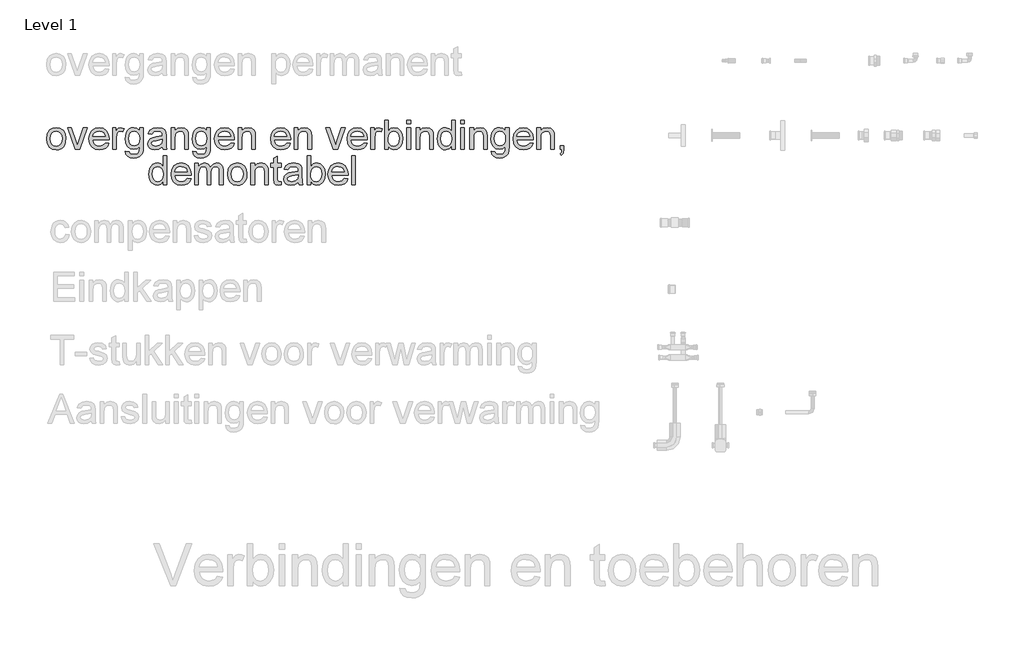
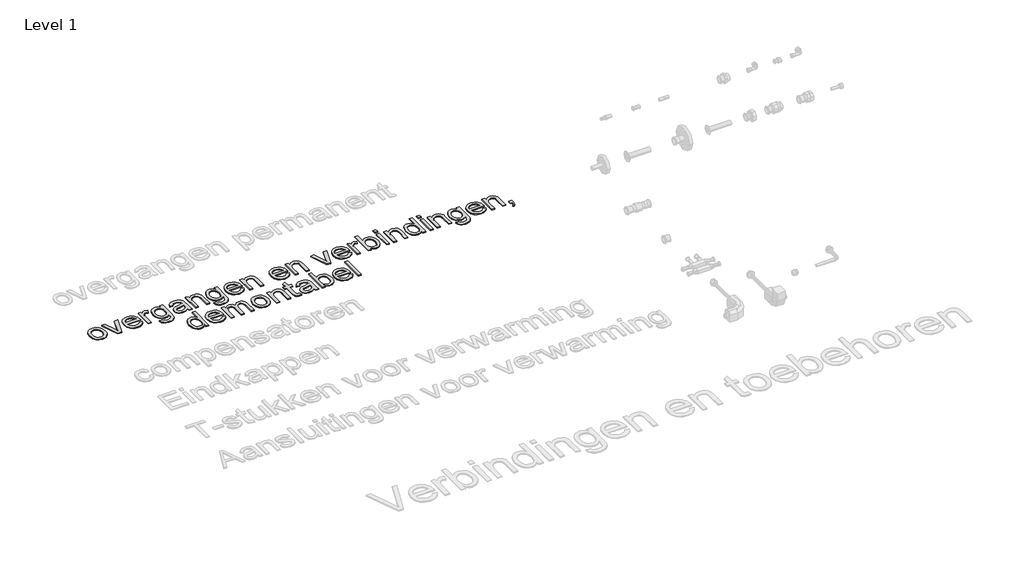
# One storey, part 7 of 8: 1 proxy.
"""IFC4 building model written with IfcOpenShell, lengths in millimetres."""

from ifc_helpers import new_model, si_unit, origin, origin_with_axes, place, context, project, spatial, polyline, outline, extrude, element, save

model = new_model("IFC4")

# Units and contexts
model_context = context("Model", 3, world=origin())
ifc_project = project(units=[si_unit("LENGTHUNIT", "METRE", prefix="MILLI")], contexts=[model_context])

# Site, building, storey
site = spatial("IfcSite", under=ifc_project)
building = spatial("IfcBuilding", under=site)
storey = spatial("IfcBuildingStorey", under=building, Name="Level 1", Elevation=0.0)

# Proxy
placement = place(None, origin())
element("IfcBuildingElementProxy", 1, Name="small", ObjectType="small", at=placement, inside=storey, context=model_context, shape_type="SweptSolid", body=[
    extrude(outline(polyline([(2634.8228033, 5275.2037382), (2638.6254769, 5300.1056705), (2650.0334976, 5317.6082695), (2664.1282831, 5326.1835988), (2681.0042565, 5329.0420419), (2699.4725458, 5325.5612651), (2714.2240006, 5315.1189347), (2723.8937789, 5298.5391063), (2727.1170383, 5276.6458356), (2725.6921087, 5258.8857192), (2721.4173199, 5245.3660559), (2714.4171387, 5235.2413302), (2704.8160318, 5227.6660268), (2693.412303, 5222.9405826), (2681.0042565, 5221.3654345), (2662.3127854, 5224.8333354), (2647.5784984, 5235.2370383), (2638.0117271, 5252.1645151), (2634.8228033, 5275.2037382)]), holes=[polyline([(2652.4026576, 5275.2380739), (2654.4370451, 5259.3277907), (2660.5402074, 5247.9927333), (2669.7249945, 5241.2071499), (2681.0042565, 5238.9452888), (2692.232015, 5241.2200258), (2701.3996343, 5248.0442368), (2707.5027966, 5259.5295127), (2709.537184, 5275.7874443), (2707.4899207, 5291.2341961), (2701.3481308, 5302.4147431), (2692.1676356, 5309.2003265), (2681.0042565, 5311.4621877), (2669.7249945, 5309.2089104), (2660.5402074, 5302.4490788), (2654.4370451, 5291.1397731), (2652.4026576, 5275.2380739)])]), origin_with_axes(), (0.0, 0.0, 1.0), 5.0),
    extrude(outline(polyline([(2772.2340862, 5223.5629163), (2735.9069654, 5326.8445601), (2754.5168893, 5326.8445601), (2776.5260428, 5264.9717136), (2783.1528238, 5244.164308), (2789.6422622, 5263.8043014), (2811.7887583, 5326.8445601), (2830.3986822, 5326.8445601), (2794.5179249, 5223.5629163), (2772.2340862, 5223.5629163)])), origin_with_axes(), (0.0, 0.0, 1.0), 5.0),
    extrude(outline(polyline([(2918.0919396, 5254.3276613), (2935.3284374, 5252.1301795), (2929.1179762, 5239.1427188), (2919.2078484, 5229.4343129), (2905.8212357, 5223.3826541), (2889.1813199, 5221.3654345), (2868.5541764, 5224.8462113), (2852.6825209, 5235.2885417), (2842.5620872, 5252.0142966), (2839.1886093, 5274.3453469), (2842.5964229, 5297.4274895), (2852.8198635, 5314.689739), (2868.4769212, 5325.4539662), (2888.185586, 5329.0420419), (2907.2805009, 5325.4625501), (2922.5384067, 5314.7240747), (2932.5429575, 5297.4961608), (2935.8778078, 5274.4483538), (2935.7748009, 5269.7100337), (2856.7684636, 5269.7100337), (2859.8114608, 5256.5508948), (2866.8803134, 5246.8768246), (2877.0822942, 5240.9281727), (2889.5246764, 5238.9452888), (2906.7611742, 5242.6192036), (2918.0919396, 5254.3276613)]), holes=[polyline([(2856.7684636, 5287.289888), (2918.2979536, 5287.289888), (2911.2591447, 5303.221631), (2901.0099523, 5309.4020485), (2888.1169147, 5311.4621877), (2876.2668225, 5309.8183683), (2866.4682855, 5304.8869101), (2859.6569504, 5297.2000158), (2856.7684636, 5287.289888)])]), origin_with_axes(), (0.0, 0.0, 1.0), 5.0),
    extrude(outline(polyline([(2953.4576621, 5223.5629163), (2953.4576621, 5326.8445601), (2968.8400346, 5326.8445601), (2968.8400346, 5311.5651946), (2979.7587722, 5325.6428123), (2990.7461811, 5329.0420419), (3008.3947067, 5323.6170088), (3002.5233101, 5307.8569441), (2990.162475, 5311.4621877), (2980.2223035, 5307.9942867), (2973.8873756, 5298.3803039), (2971.0375164, 5277.8475835), (2971.0375164, 5223.5629163), (2953.4576621, 5223.5629163)])), origin_with_axes(), (0.0, 0.0, 1.0), 5.0),
    extrude(outline(polyline([(3014.9871521, 5214.7729891), (3032.5670063, 5212.5755073), (3038.2667247, 5203.3048811), (3055.3315442, 5199.3906166), (3073.3234263, 5203.8199159), (3081.9073395, 5216.2494222), (3083.1090874, 5236.747807), (3070.7310845, 5226.8591389), (3055.6405651, 5223.5629163), (3037.5156323, 5227.3999255), (3024.000261, 5238.9109531), (3015.592318, 5255.7869265), (3012.7896703, 5275.718773), (3017.8198434, 5302.9641136), (3023.9745092, 5314.0244857), (3032.3781603, 5322.2435827), (3042.7432355, 5327.3424271), (3054.7821738, 5329.0420419), (3070.4649832, 5325.1964488), (3083.1090874, 5313.6596694), (3083.1090874, 5326.8445601), (3100.6889417, 5326.8445601), (3100.6889417, 5237.6748696), (3099.4871938, 5217.0863537), (3095.8819503, 5203.5280628), (3089.671489, 5194.5364137), (3080.6540882, 5187.6478234), (3069.0271778, 5183.2700276), (3054.9881877, 5181.8107624), (3038.631541, 5183.8666096), (3025.7513793, 5190.0341512), (3017.4893628, 5200.3305551), (3014.9871521, 5214.7729891)]), holes=[polyline([(3030.3695246, 5276.9205209), (3032.2451096, 5260.7956399), (3037.8718647, 5249.7095159), (3046.3313112, 5243.2844569), (3056.7049703, 5241.1427705), (3067.0013742, 5243.271581), (3075.5037403, 5249.6580125), (3081.2077506, 5260.6025018), (3083.1090874, 5276.4054861), (3081.1519552, 5291.646224), (3075.2805585, 5302.620757), (3066.6537257, 5309.25183), (3056.4302851, 5311.4621877), (3046.3913986, 5309.2861657), (3037.9748717, 5302.7580996), (3032.2708613, 5291.9466609), (3030.3695246, 5276.9205209)])]), origin_with_axes(), (0.0, 0.0, 1.0), 5.0),
    extrude(outline(polyline([(3192.9831766, 5236.747807), (3175.935525, 5224.8333354), (3157.1024194, 5221.3654345), (3142.4110519, 5223.4513254), (3131.5738614, 5229.7089981), (3124.891285, 5239.2113901), (3122.6637595, 5251.0314386), (3126.0286535, 5264.937378), (3134.8700841, 5275.0320599), (3147.1794157, 5280.8004496), (3162.3901099, 5283.4442949), (3192.8801697, 5289.4873698), (3192.9831766, 5293.4016342), (3191.7728449, 5301.2473309), (3188.1418496, 5306.380511), (3180.0214677, 5310.1917685), (3168.70787, 5311.4621877), (3150.9220018, 5308.0801258), (3142.4410956, 5296.0798152), (3124.8612413, 5298.2772969), (3132.4665884, 5315.4451234), (3147.7802896, 5325.5054697), (3170.9740231, 5329.0420419), (3192.2792957, 5325.9174975), (3204.3139421, 5318.0718008), (3209.7046396, 5306.1401615), (3210.5630309, 5290.757789), (3210.5630309, 5268.8859781), (3211.4557579, 5238.3444148), (3214.9579945, 5223.5629163), (3197.3781402, 5223.5629163), (3192.9831766, 5236.747807)]), holes=[polyline([(3192.9831766, 5271.9075155), (3164.6219273, 5266.516818), (3149.4970722, 5263.6669588), (3142.6471095, 5259.0316457), (3140.2436138, 5252.2675221), (3145.4798009, 5242.7565462), (3160.8450055, 5238.9452888), (3178.6308737, 5243.1514062), (3190.0989818, 5253.3319273), (3192.8801697, 5266.9288459), (3192.9831766, 5271.9075155)])]), origin_with_axes(), (0.0, 0.0, 1.0), 5.0),
    extrude(outline(polyline([(3234.7353305, 5223.5629163), (3234.7353305, 5326.8445601), (3252.3151848, 5326.8445601), (3252.3151848, 5312.4235859), (3265.7575929, 5324.8874279), (3284.1099994, 5329.0420419), (3300.7112875, 5325.6943158), (3312.042053, 5316.9043886), (3317.3125757, 5303.9770153), (3318.2396383, 5286.9808671), (3318.2396383, 5223.5629163), (3300.6597841, 5223.5629163), (3300.6597841, 5284.6117071), (3298.6339805, 5300.1657579), (3291.4749969, 5308.3891467), (3279.4060149, 5311.4621877), (3269.109611, 5309.7368211), (3260.3325597, 5304.5607214), (3254.3195285, 5294.5604625), (3252.3151848, 5278.3626183), (3252.3151848, 5223.5629163), (3234.7353305, 5223.5629163)])), origin_with_axes(), (0.0, 0.0, 1.0), 5.0),
    extrude(outline(polyline([(3338.0169744, 5214.7729891), (3355.5968287, 5212.5755073), (3361.2965471, 5203.3048811), (3378.3613665, 5199.3906166), (3396.3532486, 5203.8199159), (3404.9371619, 5216.2494222), (3406.1389097, 5236.747807), (3393.7609069, 5226.8591389), (3378.6703874, 5223.5629163), (3360.5454546, 5227.3999255), (3347.0300833, 5238.9109531), (3338.6221403, 5255.7869265), (3335.8194926, 5275.718773), (3340.8496658, 5302.9641136), (3347.0043315, 5314.0244857), (3355.4079826, 5322.2435827), (3365.7730578, 5327.3424271), (3377.8119961, 5329.0420419), (3393.4948055, 5325.1964488), (3406.1389097, 5313.6596694), (3406.1389097, 5326.8445601), (3423.718764, 5326.8445601), (3423.718764, 5237.6748696), (3422.5170161, 5217.0863537), (3418.9117726, 5203.5280628), (3412.7013114, 5194.5364137), (3403.6839105, 5187.6478234), (3392.0570001, 5183.2700276), (3378.01801, 5181.8107624), (3361.6613634, 5183.8666096), (3348.7812016, 5190.0341512), (3340.5191851, 5200.3305551), (3338.0169744, 5214.7729891)]), holes=[polyline([(3353.3993469, 5276.9205209), (3355.2749319, 5260.7956399), (3360.901687, 5249.7095159), (3369.3611335, 5243.2844569), (3379.7347926, 5241.1427705), (3390.0311966, 5243.271581), (3398.5335626, 5249.6580125), (3404.2375729, 5260.6025018), (3406.1389097, 5276.4054861), (3404.1817775, 5291.646224), (3398.3103809, 5302.620757), (3389.6835481, 5309.25183), (3379.4601074, 5311.4621877), (3369.4212209, 5309.2861657), (3361.004694, 5302.7580996), (3355.3006837, 5291.9466609), (3353.3993469, 5276.9205209)])]), origin_with_axes(), (0.0, 0.0, 1.0), 5.0),
    extrude(outline(polyline([(3522.3994304, 5254.3276613), (3539.6359281, 5252.1301795), (3533.4254669, 5239.1427188), (3523.5153391, 5229.4343129), (3510.1287264, 5223.3826541), (3493.4888107, 5221.3654345), (3472.8616672, 5224.8462113), (3456.9900116, 5235.2885417), (3446.8695779, 5252.0142966), (3443.4961001, 5274.3453469), (3446.9039136, 5297.4274895), (3457.1273542, 5314.689739), (3472.784412, 5325.4539662), (3492.4930767, 5329.0420419), (3511.5879917, 5325.4625501), (3526.8458974, 5314.7240747), (3536.8504483, 5297.4961608), (3540.1852986, 5274.4483538), (3540.0822916, 5269.7100337), (3461.0759543, 5269.7100337), (3464.1189516, 5256.5508948), (3471.1878041, 5246.8768246), (3481.389785, 5240.9281727), (3493.8321672, 5238.9452888), (3511.0686649, 5242.6192036), (3522.3994304, 5254.3276613)]), holes=[polyline([(3461.0759543, 5287.289888), (3522.6054443, 5287.289888), (3515.5666355, 5303.221631), (3505.3174431, 5309.4020485), (3492.4244054, 5311.4621877), (3480.5743132, 5309.8183683), (3470.7757763, 5304.8869101), (3463.9644411, 5297.2000158), (3461.0759543, 5287.289888)])]), origin_with_axes(), (0.0, 0.0, 1.0), 5.0),
    extrude(outline(polyline([(3557.7651528, 5223.5629163), (3557.7651528, 5326.8445601), (3575.3450071, 5326.8445601), (3575.3450071, 5312.4235859), (3588.7874152, 5324.8874279), (3607.1398217, 5329.0420419), (3623.7411099, 5325.6943158), (3635.0718753, 5316.9043886), (3640.342398, 5303.9770153), (3641.2694607, 5286.9808671), (3641.2694607, 5223.5629163), (3623.6896064, 5223.5629163), (3623.6896064, 5284.6117071), (3621.6638029, 5300.1657579), (3614.5048192, 5308.3891467), (3602.4358373, 5311.4621877), (3592.1394333, 5309.7368211), (3583.3623821, 5304.5607214), (3577.3493509, 5294.5604625), (3575.3450071, 5278.3626183), (3575.3450071, 5223.5629163), (3557.7651528, 5223.5629163)])), origin_with_axes(), (0.0, 0.0, 1.0), 5.0),
    extrude(outline(polyline([(3792.6896899, 5254.3276613), (3809.9261876, 5252.1301795), (3803.7157264, 5239.1427188), (3793.8055986, 5229.4343129), (3780.4189859, 5223.3826541), (3763.7790701, 5221.3654345), (3743.1519267, 5224.8462113), (3727.2802711, 5235.2885417), (3717.1598374, 5252.0142966), (3713.7863596, 5274.3453469), (3717.1941731, 5297.4274895), (3727.4176137, 5314.689739), (3743.0746715, 5325.4539662), (3762.7833362, 5329.0420419), (3781.8782512, 5325.4625501), (3797.1361569, 5314.7240747), (3807.1407078, 5297.4961608), (3810.4755581, 5274.4483538), (3810.3725511, 5269.7100337), (3731.3662138, 5269.7100337), (3734.4092111, 5256.5508948), (3741.4780636, 5246.8768246), (3751.6800445, 5240.9281727), (3764.1224267, 5238.9452888), (3781.3589244, 5242.6192036), (3792.6896899, 5254.3276613)]), holes=[polyline([(3731.3662138, 5287.289888), (3792.8957038, 5287.289888), (3785.856895, 5303.221631), (3775.6077026, 5309.4020485), (3762.7146649, 5311.4621877), (3750.8645727, 5309.8183683), (3741.0660358, 5304.8869101), (3734.2547006, 5297.2000158), (3731.3662138, 5287.289888)])]), origin_with_axes(), (0.0, 0.0, 1.0), 5.0),
    extrude(outline(polyline([(3828.0554123, 5223.5629163), (3828.0554123, 5326.8445601), (3845.6352666, 5326.8445601), (3845.6352666, 5312.4235859), (3859.0776747, 5324.8874279), (3877.4300812, 5329.0420419), (3894.0313694, 5325.6943158), (3905.3621348, 5316.9043886), (3910.6326575, 5303.9770153), (3911.5597202, 5286.9808671), (3911.5597202, 5223.5629163), (3893.9798659, 5223.5629163), (3893.9798659, 5284.6117071), (3891.9540624, 5300.1657579), (3884.7950787, 5308.3891467), (3872.7260967, 5311.4621877), (3862.4296928, 5309.7368211), (3853.6526416, 5304.5607214), (3847.6396104, 5294.5604625), (3845.6352666, 5278.3626183), (3845.6352666, 5223.5629163), (3828.0554123, 5223.5629163)])), origin_with_axes(), (0.0, 0.0, 1.0), 5.0),
    extrude(outline(polyline([(4016.0087762, 5223.5629163), (3979.6816555, 5326.8445601), (3998.2915793, 5326.8445601), (4020.3007328, 5264.9717136), (4026.9275138, 5244.164308), (4033.4169522, 5263.8043014), (4055.5634483, 5326.8445601), (4074.1733722, 5326.8445601), (4038.2926149, 5223.5629163), (4016.0087762, 5223.5629163)])), origin_with_axes(), (0.0, 0.0, 1.0), 5.0),
    extrude(outline(polyline([(4161.8666297, 5254.3276613), (4179.1031274, 5252.1301795), (4172.8926662, 5239.1427188), (4162.9825384, 5229.4343129), (4149.5959257, 5223.3826541), (4132.9560099, 5221.3654345), (4112.3288665, 5224.8462113), (4096.4572109, 5235.2885417), (4086.3367772, 5252.0142966), (4082.9632994, 5274.3453469), (4086.3711129, 5297.4274895), (4096.5945535, 5314.689739), (4112.2516113, 5325.4539662), (4131.960276, 5329.0420419), (4151.055191, 5325.4625501), (4166.3130967, 5314.7240747), (4176.3176476, 5297.4961608), (4179.6524979, 5274.4483538), (4179.5494909, 5269.7100337), (4100.5431536, 5269.7100337), (4103.5861509, 5256.5508948), (4110.6550034, 5246.8768246), (4120.8569843, 5240.9281727), (4133.2993665, 5238.9452888), (4150.5358642, 5242.6192036), (4161.8666297, 5254.3276613)]), holes=[polyline([(4100.5431536, 5287.289888), (4162.0726436, 5287.289888), (4155.0338348, 5303.221631), (4144.7846424, 5309.4020485), (4131.8916047, 5311.4621877), (4120.0415125, 5309.8183683), (4110.2429756, 5304.8869101), (4103.4316404, 5297.2000158), (4100.5431536, 5287.289888)])]), origin_with_axes(), (0.0, 0.0, 1.0), 5.0),
    extrude(outline(polyline([(4197.2323521, 5223.5629163), (4197.2323521, 5326.8445601), (4212.6147246, 5326.8445601), (4212.6147246, 5311.5651946), (4223.5334623, 5325.6428123), (4234.5208712, 5329.0420419), (4252.1693968, 5323.6170088), (4246.2980001, 5307.8569441), (4233.9371651, 5311.4621877), (4223.9969936, 5307.9942867), (4217.6620656, 5298.3803039), (4214.8122064, 5277.8475835), (4214.8122064, 5223.5629163), (4197.2323521, 5223.5629163)])), origin_with_axes(), (0.0, 0.0, 1.0), 5.0),
    extrude(outline(polyline([(4280.73666, 5223.5629163), (4263.1568057, 5223.5629163), (4263.1568057, 5364.2017505), (4280.73666, 5364.2017505), (4280.73666, 5312.0458938), (4293.0459915, 5324.7930049), (4308.3425249, 5329.0420419), (4325.9567148, 5325.2136166), (4339.6223047, 5314.4493895), (4348.0173718, 5297.7107587), (4351.0560771, 5276.7488426), (4347.9100729, 5253.2804238), (4338.4720603, 5235.8207444), (4324.6219163, 5224.979262), (4308.2395179, 5221.3654345), (4292.6082119, 5226.0264994), (4280.73666, 5240.009694), (4280.73666, 5223.5629163)]), holes=[polyline([(4280.73666, 5275.9247869), (4281.9384078, 5261.2634631), (4285.5436514, 5251.3404595), (4294.7541902, 5242.0440814), (4306.7287492, 5238.9452888), (4316.8749346, 5241.2286097), (4325.544687, 5248.0785724), (4331.4933388, 5259.4522574), (4333.4762228, 5275.3067452), (4331.574886, 5291.3929985), (4325.8708757, 5302.6379249), (4317.4715166, 5309.256122), (4307.4841336, 5311.4621877), (4297.3379481, 5309.1788667), (4288.6681958, 5302.328904), (4282.7195439, 5291.1612329), (4280.73666, 5275.9247869)])]), origin_with_axes(), (0.0, 0.0, 1.0), 5.0),
    extrude(outline(polyline([(4370.8334131, 5223.5629163), (4370.8334131, 5326.8445601), (4388.4132674, 5326.8445601), (4388.4132674, 5223.5629163), (4370.8334131, 5223.5629163)])), origin_with_axes(), (0.0, 0.0, 1.0), 5.0),
    extrude(outline(polyline([(4370.8334131, 5346.6218962), (4370.8334131, 5364.2017505), (4388.4132674, 5364.2017505), (4388.4132674, 5346.6218962), (4370.8334131, 5346.6218962)])), origin_with_axes(), (0.0, 0.0, 1.0), 5.0),
    extrude(outline(polyline([(4414.7830488, 5223.5629163), (4414.7830488, 5326.8445601), (4432.3629031, 5326.8445601), (4432.3629031, 5312.4235859), (4445.8053112, 5324.8874279), (4464.1577177, 5329.0420419), (4480.7590058, 5325.6943158), (4492.0897713, 5316.9043886), (4497.360294, 5303.9770153), (4498.2873566, 5286.9808671), (4498.2873566, 5223.5629163), (4480.7075023, 5223.5629163), (4480.7075023, 5284.6117071), (4478.6816988, 5300.1657579), (4471.5227152, 5308.3891467), (4459.4537332, 5311.4621877), (4449.1573293, 5309.7368211), (4440.380278, 5304.5607214), (4434.3672468, 5294.5604625), (4432.3629031, 5278.3626183), (4432.3629031, 5223.5629163), (4414.7830488, 5223.5629163)])), origin_with_axes(), (0.0, 0.0, 1.0), 5.0),
    extrude(outline(polyline([(4586.186628, 5223.5629163), (4586.186628, 5240.1470366), (4574.5554256, 5226.060835), (4558.4777561, 5221.3654345), (4547.112655, 5223.0650493), (4536.7089522, 5228.1638938), (4527.9018572, 5236.3057354), (4521.3265797, 5247.134342), (4515.8672109, 5275.1007312), (4520.897384, 5303.0842883), (4527.1808085, 5314.1832881), (4535.9707357, 5322.3465896), (4546.6019122, 5327.3681788), (4558.4090848, 5329.0420419), (4574.615513, 5324.2522184), (4586.186628, 5311.8055442), (4586.186628, 5364.2017505), (4603.7664823, 5364.2017505), (4603.7664823, 5223.5629163), (4586.186628, 5223.5629163)]), holes=[polyline([(4533.4470652, 5275.1694026), (4535.4299491, 5259.2677033), (4541.378601, 5247.9583976), (4550.0226016, 5241.198566), (4560.0915318, 5238.9452888), (4570.1561701, 5241.095559), (4578.5812809, 5247.5463698), (4584.2852912, 5258.4178959), (4586.186628, 5273.8303121), (4584.2509556, 5290.6805337), (4578.4439383, 5302.3632396), (4569.8042296, 5309.1874506), (4559.3704831, 5311.4621877), (4549.1985459, 5309.2775817), (4540.8635662, 5302.723764), (4535.3011904, 5291.4659618), (4533.4470652, 5275.1694026)])]), origin_with_axes(), (0.0, 0.0, 1.0), 5.0),
    extrude(outline(polyline([(4630.1362637, 5223.5629163), (4630.1362637, 5326.8445601), (4647.716118, 5326.8445601), (4647.716118, 5223.5629163), (4630.1362637, 5223.5629163)])), origin_with_axes(), (0.0, 0.0, 1.0), 5.0),
    extrude(outline(polyline([(4630.1362637, 5346.6218962), (4630.1362637, 5364.2017505), (4647.716118, 5364.2017505), (4647.716118, 5346.6218962), (4630.1362637, 5346.6218962)])), origin_with_axes(), (0.0, 0.0, 1.0), 5.0),
    extrude(outline(polyline([(4674.0858994, 5223.5629163), (4674.0858994, 5326.8445601), (4691.6657537, 5326.8445601), (4691.6657537, 5312.4235859), (4705.1081618, 5324.8874279), (4723.4605682, 5329.0420419), (4740.0618564, 5325.6943158), (4751.3926219, 5316.9043886), (4756.6631446, 5303.9770153), (4757.5902072, 5286.9808671), (4757.5902072, 5223.5629163), (4740.0103529, 5223.5629163), (4740.0103529, 5284.6117071), (4737.9845494, 5300.1657579), (4730.8255658, 5308.3891467), (4718.7565838, 5311.4621877), (4708.4601799, 5309.7368211), (4699.6831286, 5304.5607214), (4693.6700974, 5294.5604625), (4691.6657537, 5278.3626183), (4691.6657537, 5223.5629163), (4674.0858994, 5223.5629163)])), origin_with_axes(), (0.0, 0.0, 1.0), 5.0),
    extrude(outline(polyline([(4777.3675433, 5214.7729891), (4794.9473975, 5212.5755073), (4800.6471159, 5203.3048811), (4817.7119354, 5199.3906166), (4835.7038175, 5203.8199159), (4844.2877307, 5216.2494222), (4845.4894786, 5236.747807), (4833.1114757, 5226.8591389), (4818.0209563, 5223.5629163), (4799.8960235, 5227.3999255), (4786.3806521, 5238.9109531), (4777.9727091, 5255.7869265), (4775.1700615, 5275.718773), (4780.2002346, 5302.9641136), (4786.3549004, 5314.0244857), (4794.7585514, 5322.2435827), (4805.1236267, 5327.3424271), (4817.162565, 5329.0420419), (4832.8453744, 5325.1964488), (4845.4894786, 5313.6596694), (4845.4894786, 5326.8445601), (4863.0693329, 5326.8445601), (4863.0693329, 5237.6748696), (4861.867585, 5217.0863537), (4858.2623415, 5203.5280628), (4852.0518802, 5194.5364137), (4843.0344794, 5187.6478234), (4831.4075689, 5183.2700276), (4817.3685789, 5181.8107624), (4801.0119322, 5183.8666096), (4788.1317704, 5190.0341512), (4779.869754, 5200.3305551), (4777.3675433, 5214.7729891)]), holes=[polyline([(4792.7499158, 5276.9205209), (4794.6255008, 5260.7956399), (4800.2522559, 5249.7095159), (4808.7117024, 5243.2844569), (4819.0853615, 5241.1427705), (4829.3817654, 5243.271581), (4837.8841315, 5249.6580125), (4843.5881418, 5260.6025018), (4845.4894786, 5276.4054861), (4843.5323464, 5291.646224), (4837.6609497, 5302.620757), (4829.0341169, 5309.25183), (4818.8106763, 5311.4621877), (4808.7717898, 5309.2861657), (4800.3552629, 5302.7580996), (4794.6512525, 5291.9466609), (4792.7499158, 5276.9205209)])]), origin_with_axes(), (0.0, 0.0, 1.0), 5.0),
    extrude(outline(polyline([(4961.7499992, 5254.3276613), (4978.986497, 5252.1301795), (4972.7760358, 5239.1427188), (4962.865908, 5229.4343129), (4949.4792953, 5223.3826541), (4932.8393795, 5221.3654345), (4912.212236, 5224.8462113), (4896.3405805, 5235.2885417), (4886.2201468, 5252.0142966), (4882.8466689, 5274.3453469), (4886.2544825, 5297.4274895), (4896.4779231, 5314.689739), (4912.1349808, 5325.4539662), (4931.8436456, 5329.0420419), (4950.9385605, 5325.4625501), (4966.1964663, 5314.7240747), (4976.2010171, 5297.4961608), (4979.5358674, 5274.4483538), (4979.4328605, 5269.7100337), (4900.4265232, 5269.7100337), (4903.4695204, 5256.5508948), (4910.538373, 5246.8768246), (4920.7403538, 5240.9281727), (4933.182736, 5238.9452888), (4950.4192338, 5242.6192036), (4961.7499992, 5254.3276613)]), holes=[polyline([(4900.4265232, 5287.289888), (4961.9560132, 5287.289888), (4954.9172043, 5303.221631), (4944.6680119, 5309.4020485), (4931.7749743, 5311.4621877), (4919.9248821, 5309.8183683), (4910.1263451, 5304.8869101), (4903.31501, 5297.2000158), (4900.4265232, 5287.289888)])]), origin_with_axes(), (0.0, 0.0, 1.0), 5.0),
    extrude(outline(polyline([(4997.1157217, 5223.5629163), (4997.1157217, 5326.8445601), (5014.695576, 5326.8445601), (5014.695576, 5312.4235859), (5028.1379841, 5324.8874279), (5046.4903906, 5329.0420419), (5063.0916787, 5325.6943158), (5074.4224442, 5316.9043886), (5079.6929669, 5303.9770153), (5080.6200295, 5286.9808671), (5080.6200295, 5223.5629163), (5063.0401752, 5223.5629163), (5063.0401752, 5284.6117071), (5061.0143717, 5300.1657579), (5053.8553881, 5308.3891467), (5041.7864061, 5311.4621877), (5031.4900022, 5309.7368211), (5022.7129509, 5304.5607214), (5016.6999197, 5294.5604625), (5014.695576, 5278.3626183), (5014.695576, 5223.5629163), (4997.1157217, 5223.5629163)])), origin_with_axes(), (0.0, 0.0, 1.0), 5.0),
    extrude(outline(polyline([(5109.1872927, 5223.5629163), (5109.1872927, 5241.1427705), (5126.767147, 5241.1427705), (5126.767147, 5223.5629163), (5123.6082669, 5205.588202), (5113.5822563, 5194.9956531), (5109.1872927, 5201.5880984), (5115.6423955, 5209.1762777), (5117.9428842, 5223.5629163), (5109.1872927, 5223.5629163)])), origin_with_axes(), (0.0, 0.0, 1.0), 5.0),
    extrude(outline(polyline([(3197.3781402, 5052.7981713), (3197.3781402, 5069.3822916), (3185.7469378, 5055.29609), (3169.6692683, 5050.6006895), (3158.3041672, 5052.3003043), (3147.9004644, 5057.3991488), (3139.0933694, 5065.5409905), (3132.5180919, 5076.369597), (3127.0587231, 5104.3359863), (3132.0888962, 5132.3195434), (3138.3723207, 5143.4185432), (3147.1622478, 5151.5818446), (3157.7934244, 5156.6034339), (3169.600597, 5158.2772969), (3185.8070252, 5153.4874734), (3197.3781402, 5141.0407992), (3197.3781402, 5193.4370055), (3214.9579945, 5193.4370055), (3214.9579945, 5052.7981713), (3197.3781402, 5052.7981713)]), holes=[polyline([(3144.6385774, 5104.4046576), (3146.6214613, 5088.5029583), (3152.5701132, 5077.1936527), (3161.2141138, 5070.433821), (3171.283044, 5068.1805438), (3181.3476822, 5070.330814), (3189.7727931, 5076.7816248), (3195.4768034, 5087.6531509), (3197.3781402, 5103.0655671), (3195.4424678, 5119.9157888), (3189.6354505, 5131.5984947), (3180.9957418, 5138.4227057), (3170.5619953, 5140.6974427), (3160.3900581, 5138.5128368), (3152.0550784, 5131.959019), (3146.4927026, 5120.7012168), (3144.6385774, 5104.4046576)])]), origin_with_axes(), (0.0, 0.0, 1.0), 5.0),
    extrude(outline(polyline([(3313.6386608, 5083.5629163), (3330.8751586, 5081.3654345), (3324.6646974, 5068.3779738), (3314.7545696, 5058.6695679), (3301.3679569, 5052.6179091), (3284.7280411, 5050.6006895), (3264.1008977, 5054.0814663), (3248.2292421, 5064.5237967), (3238.1088084, 5081.2495517), (3234.7353305, 5103.5806019), (3238.1431441, 5126.6627446), (3248.3665847, 5143.924994), (3264.0236424, 5154.6892212), (3283.7323072, 5158.2772969), (3302.8272221, 5154.6978051), (3318.0851279, 5143.9593297), (3328.0896788, 5126.7314159), (3331.424529, 5103.6836089), (3331.3215221, 5098.9452888), (3252.3151848, 5098.9452888), (3255.358182, 5085.7861498), (3262.4270346, 5076.1120796), (3272.6290154, 5070.1634277), (3285.0713977, 5068.1805438), (3302.3078954, 5071.8544586), (3313.6386608, 5083.5629163)]), holes=[polyline([(3252.3151848, 5116.525143), (3313.8446748, 5116.525143), (3306.8058659, 5132.456886), (3296.5566735, 5138.6373035), (3283.6636359, 5140.6974427), (3271.8135437, 5139.0536233), (3262.0150067, 5134.1221651), (3255.2036716, 5126.4352709), (3252.3151848, 5116.525143)])]), origin_with_axes(), (0.0, 0.0, 1.0), 5.0),
    extrude(outline(polyline([(3349.0043833, 5052.7981713), (3349.0043833, 5156.0798152), (3366.5842376, 5156.0798152), (3366.5842376, 5139.083667), (3378.6703874, 5153.0067742), (3395.8725495, 5158.2772969), (3413.4867394, 5152.9037673), (3423.1693935, 5137.8475835), (3436.8864869, 5153.1698686), (3454.2088238, 5158.2772969), (3467.4237582, 5156.1527784), (3477.1965434, 5149.7792229), (3483.2353263, 5138.984952), (3485.248254, 5123.5982875), (3485.248254, 5052.7981713), (3467.6683997, 5052.7981713), (3467.6683997, 5116.0444439), (3466.0374562, 5130.7229355), (3460.1317239, 5137.9505904), (3450.0885454, 5140.6974427), (3440.5646937, 5138.9377405), (3432.8005442, 5133.6586338), (3427.6373204, 5124.4995984), (3425.9162458, 5111.1001099), (3425.9162458, 5052.7981713), (3408.3363915, 5052.7981713), (3408.3363915, 5118.0015761), (3404.2676166, 5135.0320599), (3398.8983789, 5139.281097), (3390.9282155, 5140.6974427), (3377.915003, 5136.9205209), (3369.2624185, 5125.8644406), (3366.5842376, 5104.8853567), (3366.5842376, 5052.7981713), (3349.0043833, 5052.7981713)])), origin_with_axes(), (0.0, 0.0, 1.0), 5.0),
    extrude(outline(polyline([(3507.2230718, 5104.4389932), (3511.0257454, 5129.3409255), (3522.433766, 5146.8435245), (3536.5285515, 5155.4188538), (3553.4045249, 5158.2772969), (3571.8728142, 5154.7965201), (3586.6242691, 5144.3541897), (3596.2940473, 5127.7743613), (3599.5173068, 5105.8810906), (3598.0923772, 5088.1209742), (3593.8175884, 5074.6013109), (3586.8174071, 5064.4765852), (3577.2163002, 5056.9012818), (3565.8125715, 5052.1758376), (3553.4045249, 5050.6006895), (3534.7130539, 5054.0685904), (3519.9787669, 5064.4722933), (3510.4119956, 5081.3997701), (3507.2230718, 5104.4389932)]), holes=[polyline([(3524.8029261, 5104.4733289), (3526.8373135, 5088.5630457), (3532.9404758, 5077.2279883), (3542.125263, 5070.4424049), (3553.4045249, 5068.1805438), (3564.6322834, 5070.4552808), (3573.7999027, 5077.2794918), (3579.903065, 5088.7647677), (3581.9374525, 5105.0226993), (3579.8901892, 5120.4694512), (3573.7483993, 5131.6499981), (3564.5679041, 5138.4355815), (3553.4045249, 5140.6974427), (3542.125263, 5138.4441654), (3532.9404758, 5131.6843338), (3526.8373135, 5120.3750281), (3524.8029261, 5104.4733289)])]), origin_with_axes(), (0.0, 0.0, 1.0), 5.0),
    extrude(outline(polyline([(3619.2946428, 5052.7981713), (3619.2946428, 5156.0798152), (3636.8744971, 5156.0798152), (3636.8744971, 5141.6588409), (3650.3169052, 5154.1226829), (3668.6693117, 5158.2772969), (3685.2705998, 5154.9295708), (3696.6013653, 5146.1396437), (3701.871888, 5133.2122703), (3702.7989506, 5116.2161222), (3702.7989506, 5052.7981713), (3685.2190964, 5052.7981713), (3685.2190964, 5113.8469621), (3683.1932928, 5129.4010129), (3676.0343092, 5137.6244017), (3663.9653272, 5140.6974427), (3653.6689233, 5138.9720761), (3644.891872, 5133.7959764), (3638.8788408, 5123.7957175), (3636.8744971, 5107.5978733), (3636.8744971, 5052.7981713), (3619.2946428, 5052.7981713)])), origin_with_axes(), (0.0, 0.0, 1.0), 5.0),
    extrude(outline(polyline([(3764.3284406, 5067.4594951), (3766.5259224, 5052.2831365), (3753.3753673, 5050.6006895), (3738.6453722, 5053.51922), (3731.2975425, 5061.1760706), (3729.168732, 5081.1250849), (3729.168732, 5138.4999609), (3715.9838413, 5138.4999609), (3715.9838413, 5156.0798152), (3729.168732, 5156.0798152), (3729.168732, 5181.1791774), (3746.7485863, 5191.5142089), (3746.7485863, 5156.0798152), (3764.3284406, 5156.0798152), (3764.3284406, 5138.4999609), (3746.7485863, 5138.4999609), (3746.7485863, 5081.6401197), (3747.6756489, 5072.5755073), (3750.6800186, 5069.3651238), (3756.67159, 5068.1805438), (3764.3284406, 5067.4594951)])), origin_with_axes(), (0.0, 0.0, 1.0), 5.0),
    extrude(outline(polyline([(3847.8327484, 5065.983062), (3830.7850967, 5054.0685904), (3811.9519911, 5050.6006895), (3797.2606237, 5052.6865804), (3786.4234332, 5058.9442532), (3779.7408568, 5068.4466451), (3777.5133313, 5080.2666936), (3780.8782253, 5094.172633), (3789.7196559, 5104.267315), (3802.0289875, 5110.0357046), (3817.2396817, 5112.6795499), (3847.7297414, 5118.7226248), (3847.8327484, 5122.6368893), (3846.6224166, 5130.4825859), (3842.9914213, 5135.615766), (3834.8710394, 5139.4270235), (3823.5574418, 5140.6974427), (3805.7715736, 5137.3153809), (3797.2906674, 5125.3150702), (3779.7108131, 5127.512552), (3787.3161602, 5144.6803784), (3802.6298614, 5154.7407247), (3825.8235949, 5158.2772969), (3847.1288675, 5155.1527525), (3859.1635139, 5147.3070558), (3864.5542114, 5135.3754165), (3865.4126027, 5119.993044), (3865.4126027, 5098.1212331), (3866.3053297, 5067.5796699), (3869.8075663, 5052.7981713), (3852.227712, 5052.7981713), (3847.8327484, 5065.983062)]), holes=[polyline([(3847.8327484, 5101.1427705), (3819.4714991, 5095.752073), (3804.346644, 5092.9022139), (3797.4966813, 5088.2669007), (3795.0931856, 5081.5027771), (3800.3293726, 5071.9918012), (3815.6945773, 5068.1805438), (3833.4804455, 5072.3866613), (3844.9485536, 5082.5671823), (3847.7297414, 5096.1641009), (3847.8327484, 5101.1427705)])]), origin_with_axes(), (0.0, 0.0, 1.0), 5.0),
    extrude(outline(polyline([(3907.1647566, 5052.7981713), (3889.5849023, 5052.7981713), (3889.5849023, 5193.4370055), (3907.1647566, 5193.4370055), (3907.1647566, 5141.2811488), (3919.4740881, 5154.0282599), (3934.7706215, 5158.2772969), (3952.3848114, 5154.4488716), (3966.0504013, 5143.6846445), (3974.4454684, 5126.9460137), (3977.4841737, 5105.9840976), (3974.3381695, 5082.5156789), (3964.9001569, 5065.0559994), (3951.0500129, 5054.214517), (3934.6676145, 5050.6006895), (3919.0363086, 5055.2617544), (3907.1647566, 5069.244949), (3907.1647566, 5052.7981713)]), holes=[polyline([(3907.1647566, 5105.1600419), (3908.3665044, 5090.4987182), (3911.971748, 5080.5757145), (3921.1822869, 5071.2793365), (3933.1568458, 5068.1805438), (3943.3030312, 5070.4638647), (3951.9727836, 5077.3138274), (3957.9214355, 5088.6875125), (3959.9043194, 5104.5420002), (3958.0029826, 5120.6282536), (3952.2989723, 5131.8731799), (3943.8996132, 5138.491377), (3933.9122302, 5140.6974427), (3923.7660448, 5138.4141218), (3915.0962924, 5131.564159), (3909.1476405, 5120.3964879), (3907.1647566, 5105.1600419)])]), origin_with_axes(), (0.0, 0.0, 1.0), 5.0),
    extrude(outline(polyline([(4069.5723947, 5083.5629163), (4086.8088925, 5081.3654345), (4080.5984313, 5068.3779738), (4070.6883034, 5058.6695679), (4057.3016908, 5052.6179091), (4040.661775, 5050.6006895), (4020.0346315, 5054.0814663), (4004.162976, 5064.5237967), (3994.0425423, 5081.2495517), (3990.6690644, 5103.5806019), (3994.0768779, 5126.6627446), (4004.3003186, 5143.924994), (4019.9573763, 5154.6892212), (4039.6660411, 5158.2772969), (4058.760956, 5154.6978051), (4074.0188618, 5143.9593297), (4084.0234126, 5126.7314159), (4087.3582629, 5103.6836089), (4087.255256, 5098.9452888), (4008.2489187, 5098.9452888), (4011.2919159, 5085.7861498), (4018.3607685, 5076.1120796), (4028.5627493, 5070.1634277), (4041.0051315, 5068.1805438), (4058.2416293, 5071.8544586), (4069.5723947, 5083.5629163)]), holes=[polyline([(4008.2489187, 5116.525143), (4069.7784086, 5116.525143), (4062.7395998, 5132.456886), (4052.4904074, 5138.6373035), (4039.5973698, 5140.6974427), (4027.7472776, 5139.0536233), (4017.9487406, 5134.1221651), (4011.1374055, 5126.4352709), (4008.2489187, 5116.525143)])]), origin_with_axes(), (0.0, 0.0, 1.0), 5.0),
    extrude(outline(polyline([(4104.9381172, 5052.7981713), (4104.9381172, 5193.4370055), (4122.5179715, 5193.4370055), (4122.5179715, 5052.7981713), (4104.9381172, 5052.7981713)])), origin_with_axes(), (0.0, 0.0, 1.0), 5.0),
])

save(model, "model.ifc")
